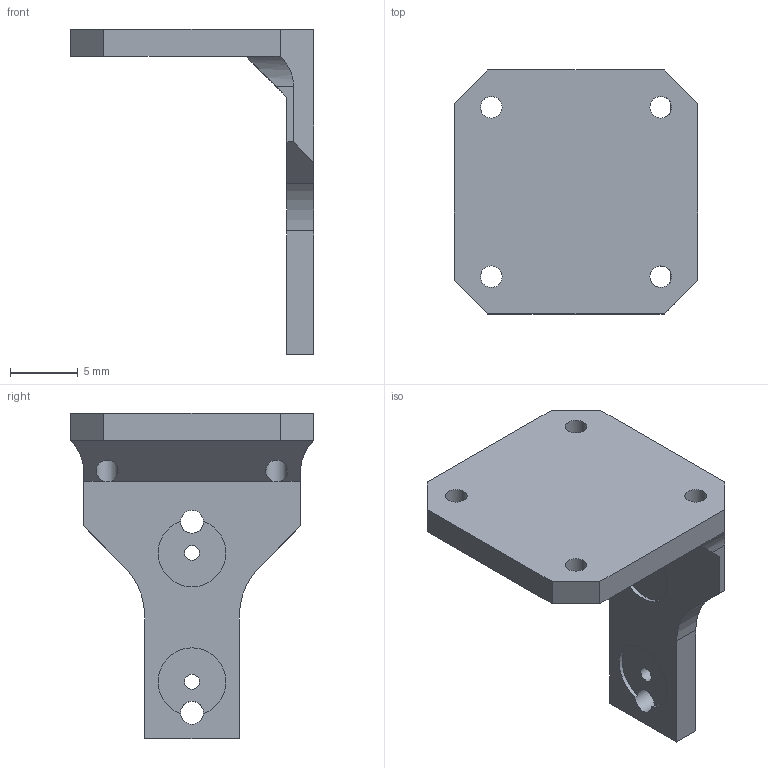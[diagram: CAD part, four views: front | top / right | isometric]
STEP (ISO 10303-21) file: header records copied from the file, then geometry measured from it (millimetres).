
FILE_DESCRIPTION(/* description */ (''),/* implementation_level */ '2;1');
FILE_NAME(/* name */ 'P181771B.stp',/* time_stamp */ '2021-01-28T11:57:18+01:00',/* author */ (''),/* organization */ (''),/* preprocessor_version */ 'ST-DEVELOPER v18.1',/* originating_system */ 'SIEMENS PLM Software NX 1953',/* authorisation */ '');
FILE_SCHEMA (('AUTOMOTIVE_DESIGN { 1 0 10303 214 3 1 1 1 }'));
Length unit declared in the file: millimetre
Products named in the file (1): jsch7818B73Dmzkb
Bounding box: 18 x 18 x 24 mm (x, y, z)
Volume: 1099.1 mm3; surface area: 1335.8 mm2
Topology: 1 solids, 1 shells, 37 faces, 117 edges, 80 vertices
Faces by surface type: plane 21, cylinder 14, cone 2
Full cylindrical faces by diameter (mm): 1.1 x2, 1.6 x4, 1.7 x2
Entity records: 1269 total; most frequent: DIRECTION 215, CARTESIAN_POINT 209, ORIENTED_EDGE 186, EDGE_CURVE 93, AXIS2_PLACEMENT_3D 78, VERTEX_POINT 64, LINE 59, VECTOR 59
